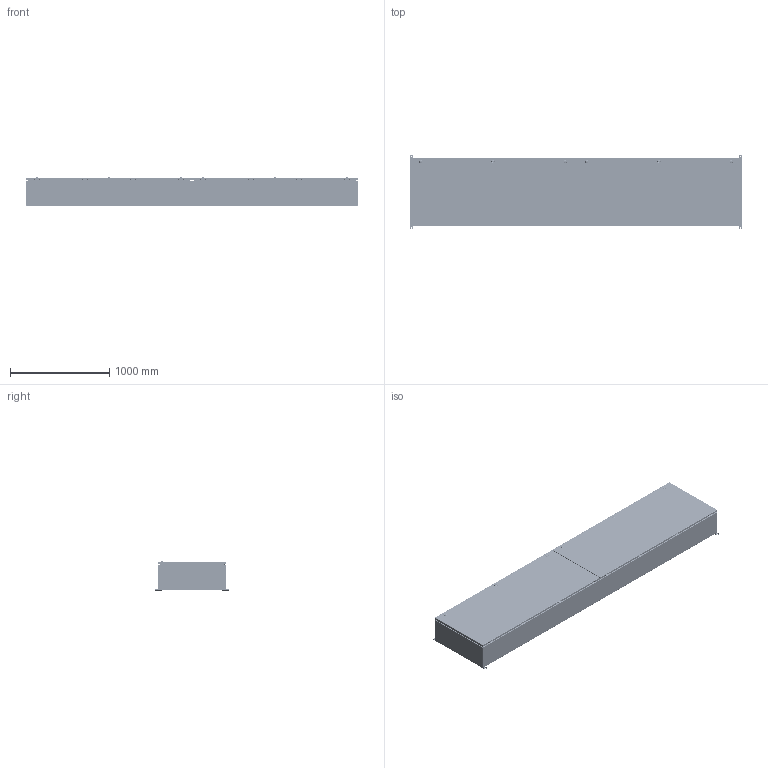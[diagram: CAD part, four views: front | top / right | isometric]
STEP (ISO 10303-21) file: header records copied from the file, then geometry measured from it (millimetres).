
FILE_DESCRIPTION(/* description */ ('1412BTSSCU 1600A - 3 Wires x 132" Assembly'),/* implementation_level */ '2;1');
FILE_NAME(/* name */ 'C:\Vault_Workspace\Inventor_Dwg\BoxCad\Result\1412BTSSCU111603\e-mail\3D\1412BTSSCU111603.stp',/* time_stamp */ '2022-09-20T12:57:11-04:00',/* author */ ('BoxCad'),/* organization */ (''),/* preprocessor_version */ 'ST-DEVELOPER v18.1',/* originating_system */ 'Autodesk Inventor 2020',/* authorisation */ '');
FILE_SCHEMA (('AUTOMOTIVE_DESIGN { 1 0 10303 214 3 1 1 }'));
Products named in the file (62): 1412BTSSCU111603; 1412BTSSCU111603B; 1412BTSSCU111603B-P; 1412BTSSCU111603E-P; STK-Q-16020; iLogic_STK-G-00701; STK-Q-00260; STK-Q-07220-1; STK-Q-07220-A; STK-Q-07220-B; 1412BTSSCU111603C; 1412BTSSCU111603C-P; 1412BTSSCU111603F-P; 1412BTSSCU111603G; STK-Q-16095; STK-K-09850-1; STK-Q-33019; STK-Q-90111; STK-Q-40096; STK-Q-63412; STK-S-00100; STK-A-880SCQ4-SLSS6-1; STK-A-880SCQ4-SLSS6-2; STK-A-880SCQ4-SLSS6-3; STK-A-880SCQ4-SLSS6-4; STK-A-880SCQ4-SLSS6-5; STK-A-880SCQ4-SLSS6-6; STK-Q-70621; STK-Q-70631; STK-Q-78145; STK-Q-03200; STK-Q-78125; STK-Q-90390; STK-Q-78160; STK-Q-78141; 1412BTSSCU111603IP1; 1412BTSSCU111603IP1-P; 1412BTSSCU111603IP2; 1412BTSSCU111603IP2-P; STK-P-02401S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
Assembly tree (209 placements, depth 4):
  1412BTSSCU111603
    1412BTSSCU111603B
      1412BTSSCU111603B-P
      1412BTSSCU111603E-P
      STK-Q-16095  x2
      STK-Q-16020  x12
      iLogic_STK-G-00701
      STK-Q-00260  x10
      STK-Q-07220-1  x10
        STK-Q-07220-A
        STK-Q-07220-B
      STK-S-00100
    1412BTSSCU111603C
      1412BTSSCU111603C-P
      1412BTSSCU111603F-P
      1412BTSSCU111603G  x2
      STK-Q-16095  x2
      STK-K-09850-1  x8
        STK-Q-33019
        STK-Q-90111
        STK-Q-40096
        STK-Q-63412
      STK-S-00100
      STK-A-880SCQ4-SLSS6-1
        STK-Q-70621
        STK-Q-70631
        STK-Q-78145
        STK-Q-03200
        STK-Q-78125
        STK-Q-90390
        STK-Q-78160
        STK-Q-78141
      STK-A-880SCQ4-SLSS6-2
        STK-Q-70621
        STK-Q-70631
        STK-Q-78145
        STK-Q-03200
        STK-Q-78125
        STK-Q-90390
        STK-Q-78160
        STK-Q-78141
      STK-A-880SCQ4-SLSS6-3
        STK-Q-70621
        STK-Q-70631
        STK-Q-78145
        STK-Q-03200
        STK-Q-78125
        STK-Q-90390
        STK-Q-78160
        STK-Q-78141
      STK-A-880SCQ4-SLSS6-4
        STK-Q-70621
        STK-Q-70631
        STK-Q-78145
        STK-Q-03200
        STK-Q-78125
        STK-Q-90390
        STK-Q-78160
        STK-Q-78141
      STK-A-880SCQ4-SLSS6-5
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Bounding box: 3352.8 x 742.95 x 294.19 mm (x, y, z)
Volume: 26364132.1 mm3; surface area: 19782435.4 mm2
Topology: 327 solids, 327 shells, 44704 faces, 117541 edges, 73430 vertices
Faces by surface type: plane 16124, bspline 12560, cylinder 11331, torus 3183, sphere 1000, cone 506
Full cylindrical faces by diameter (mm): 0.75 x16, 0.762 x16, 1 x32, 1.1 x32, 3.2 x16, 4.5 x60, 4.85 x64, 4.917 x8, 4.95 x16, 5 x10, 5.1 x96, 5.9 x246, 6.65 x15, 6.655 x12, 6.8 x10, 6.85 x100, 7.366 x16, 7.8 x615, 8 x64, 8.25 x30, 8.6 x12, 9.5 x10, 9.6 x6, 9.7 x48, 9.906 x4, 10 x14, 10.312 x2, 11.5 x30, 12 x23, 12.7 x2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
Entity records: 228567 total; most frequent: CARTESIAN_POINT 89302, ORIENTED_EDGE 30832, DIRECTION 24676, EDGE_CURVE 15416, VERTEX_POINT 9852, AXIS2_PLACEMENT_3D 8446, LINE 7784, VECTOR 7784
